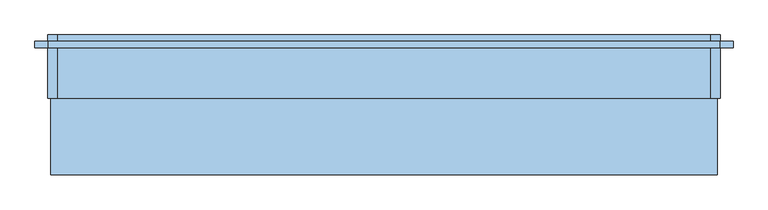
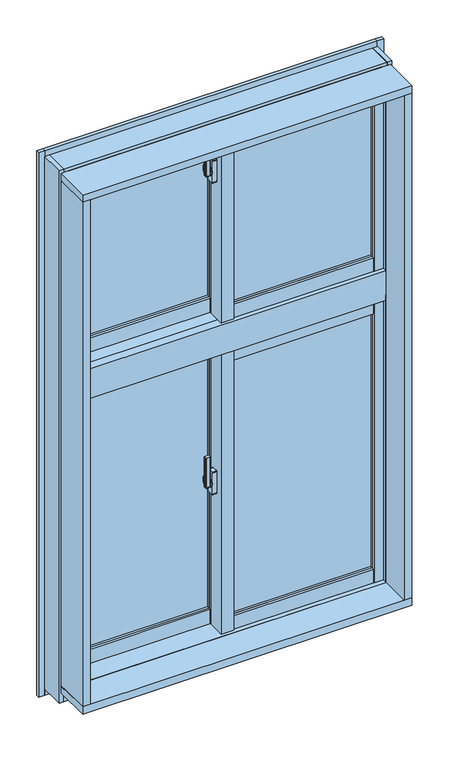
"""IFC4 building model written with IfcOpenShell, lengths in millimetres: window geometry, FNSⅡ100R_非防火_面付枠_段窓 : FIX/FIX 単."""

import ifcopenshell
import ifcopenshell.guid

model = None  # the IFC model being written
_history = None  # IfcOwnerHistory: only IFC2X3 demands one
_inside = {}  # id of a spatial element -> (the spatial element, [elements in it])
_under = {}  # id of a project, library or spatial element -> (it, [spatial elements below it])
_declared = {}  # id of a project -> (the project, [libraries it declares])
_typed = {}  # id of a type object -> (the type object, [elements of that type])
_made_of = {}  # id of a material, layer set ... -> (it, [elements and type objects made of it])


def new_model(schema):
    """Start an empty IFC model of exactly this schema.

    Asked for "IFC4X3", IfcOpenShell would pick the latest addendum, in which some entities
    have other attributes; the version numbers below select the first issue.
    IFC2X3 requires an IfcOwnerHistory on every rooted entity: one is made here for all.
    """
    global model, _history
    if schema == "IFC4X3":
        model = ifcopenshell.file(schema_version=(4, 3, 0, 0))
    else:
        model = ifcopenshell.file(schema=schema)
    _inside.clear()
    _under.clear()
    _declared.clear()
    _typed.clear()
    _made_of.clear()
    _history = None
    if model.schema == "IFC2X3":
        org = make("IfcOrganization", Name="unknown")
        user = make(
            "IfcPersonAndOrganization",
            ThePerson=make("IfcPerson", FamilyName="unknown"),
            TheOrganization=org,
        )
        app = make(
            "IfcApplication",
            ApplicationDeveloper=org,
            Version="unknown",
            ApplicationFullName="unknown",
            ApplicationIdentifier="unknown",
        )
        _history = make(
            "IfcOwnerHistory",
            OwningUser=user,
            OwningApplication=app,
            ChangeAction="ADDED",
            CreationDate=0,
        )
    return model


def make(cls, **values):
    """One entity of the class cls with the attributes given. An attribute that is None is left unset."""
    return model.create_entity(
        cls, **{name: value for name, value in values.items() if value is not None}
    )


def rooted(cls, **values):
    """An entity with a GlobalId (a new one), such as an element, a storey or a relation."""
    return make(cls, GlobalId=ifcopenshell.guid.new(), OwnerHistory=_history, **values)


def si_unit(unit_type, name, prefix=None):
    """IfcSIUnit, for example si_unit("LENGTHUNIT", "METRE", prefix="MILLI")."""
    return make("IfcSIUnit", UnitType=unit_type, Prefix=prefix, Name=name)


def assignment(units):
    """IfcUnitAssignment: the units of a project."""
    return None if units is None else make("IfcUnitAssignment", Units=units)


def point(xyz):
    """IfcCartesianPoint."""
    return None if xyz is None else make("IfcCartesianPoint", Coordinates=xyz)


def direction(xyz):
    """IfcDirection."""
    return None if xyz is None else make("IfcDirection", DirectionRatios=xyz)


def frame(location, z_axis=None, x_axis=None):
    """IfcAxis2Placement3D, a coordinate frame: its origin and axes. An axis left out is left unset."""
    return make(
        "IfcAxis2Placement3D",
        Location=point(location),
        Axis=direction(z_axis),
        RefDirection=direction(x_axis),
    )


def frame_2d(location, x_axis=None):
    """IfcAxis2Placement2D, a coordinate frame in the plane: its origin and x axis."""
    return make(
        "IfcAxis2Placement2D", Location=point(location), RefDirection=direction(x_axis)
    )


def origin():
    """The frame at (0, 0, 0) with its axes left unset."""
    return frame((0.0, 0.0, 0.0))


def place(relative_to, where):
    """IfcLocalPlacement: puts the frame where relative to a parent placement (None: the world)."""
    return make(
        "IfcLocalPlacement", PlacementRelTo=relative_to, RelativePlacement=where
    )


def context(
    kind, dimensions, precision=None, world=None, true_north=None, identifier=None
):
    """IfcGeometricRepresentationContext, for example the 3D "Model" context."""
    return make(
        "IfcGeometricRepresentationContext",
        ContextIdentifier=identifier,
        ContextType=kind,
        CoordinateSpaceDimension=dimensions,
        Precision=precision,
        WorldCoordinateSystem=world,
        TrueNorth=true_north,
    )


def project(units=None, contexts=None):
    """IfcProject with its units and contexts."""
    return rooted(
        "IfcProject",
        Name="project",
        RepresentationContexts=contexts,
        UnitsInContext=assignment(units),
    )


def spatial(cls, under=None, at=None, **own):
    """A site, building, storey or space (cls), placed at a placement, below another one or the project."""
    s = rooted(cls, ObjectPlacement=at, **own)
    if under is not None:
        _under.setdefault(under.id(), (under, []))[1].append(s)
    return s


def polyline(points):
    """IfcPolyline through the points."""
    return make("IfcPolyline", Points=[point(p) for p in points])


def circle_curve(where, radius):
    """IfcCircle in the frame where."""
    return make("IfcCircle", Position=where, Radius=radius)


def trimmed(basis, trim1, trim2, sense, master):
    """IfcTrimmedCurve: the piece of a basis curve between two trims."""
    return make(
        "IfcTrimmedCurve",
        BasisCurve=basis,
        Trim1=trim1,
        Trim2=trim2,
        SenseAgreement=sense,
        MasterRepresentation=master,
    )


def segment(curve, same_sense, transition):
    """IfcCompositeCurveSegment."""
    return make(
        "IfcCompositeCurveSegment",
        Transition=transition,
        SameSense=same_sense,
        ParentCurve=curve,
    )


def composite_curve(segments, self_intersect=None):
    """IfcCompositeCurve: segments joined end to end."""
    return make("IfcCompositeCurve", Segments=segments, SelfIntersect=self_intersect)


def outline(outer, holes=None, kind="AREA"):
    """IfcArbitraryClosedProfileDef: a profile drawn as a closed curve; with holes, ...WithVoids."""
    if holes is None:
        return make("IfcArbitraryClosedProfileDef", ProfileType=kind, OuterCurve=outer)
    return make(
        "IfcArbitraryProfileDefWithVoids",
        ProfileType=kind,
        OuterCurve=outer,
        InnerCurves=holes,
    )


def extrude(swept, where, along, depth):
    """IfcExtrudedAreaSolid: the profile swept, set in the frame where, extruded along a direction by depth."""
    return make(
        "IfcExtrudedAreaSolid",
        SweptArea=swept,
        Position=where,
        ExtrudedDirection=direction(along),
        Depth=depth,
    )


def faces_of(points, faces, orient=None, outer=None):
    """IfcFace entities. A face is a list of loops; a loop is a list of indices into points, from 0.

    orient and outer hold one flag for each loop. By default every Orientation is true, the
    first loop of a face is its IfcFaceOuterBound and the others are IfcFaceBound.
    """
    made = []
    for i, loops in enumerate(faces):
        bounds = []
        for j, loop in enumerate(loops):
            is_outer = j == 0 if outer is None else outer[i][j]
            bounds.append(
                make(
                    "IfcFaceOuterBound" if is_outer else "IfcFaceBound",
                    Bound=make("IfcPolyLoop", Polygon=[points[k] for k in loop]),
                    Orientation=True if orient is None else orient[i][j],
                )
            )
        made.append(make("IfcFace", Bounds=bounds))
    return made


def faceted_brep(points, faces, orient=None, outer=None, voids=None):
    """IfcFacetedBrep: a solid bounded by flat faces; with voids (closed shells), ...WithVoids."""
    shared = [point(p) for p in points]
    hull = make("IfcClosedShell", CfsFaces=faces_of(shared, faces, orient, outer))
    if voids is None:
        return make("IfcFacetedBrep", Outer=hull)
    return make(
        "IfcFacetedBrepWithVoids",
        Outer=hull,
        Voids=[
            make(cls, CfsFaces=faces_of(shared, fs, o, b)) for cls, fs, o, b in voids
        ],
    )


def shape(context_of_items, identifier, shape_type, items):
    """IfcShapeRepresentation: the items that make up one representation, for example the "Body"."""
    return make(
        "IfcShapeRepresentation",
        ContextOfItems=context_of_items,
        RepresentationIdentifier=identifier,
        RepresentationType=shape_type,
        Items=items,
    )


def source(mapping_origin, context_of_items, identifier, shape_type, items):
    """IfcRepresentationMap: a shape defined once, which mapped items show again and again."""
    return make(
        "IfcRepresentationMap",
        MappingOrigin=mapping_origin,
        MappedRepresentation=shape(context_of_items, identifier, shape_type, items),
    )


def transform(
    local_origin,
    x_axis=None,
    y_axis=None,
    z_axis=None,
    scale=None,
    scale2=None,
    scale3=None,
    uniform=True,
):
    """IfcCartesianTransformationOperator3D, or its non-uniform kind. x_axis, y_axis, z_axis: its Axis1, 2, 3."""
    if uniform:
        return make(
            "IfcCartesianTransformationOperator3D",
            Axis1=direction(x_axis),
            Axis2=direction(y_axis),
            LocalOrigin=point(local_origin),
            Scale=scale,
            Axis3=direction(z_axis),
        )
    return make(
        "IfcCartesianTransformationOperator3DnonUniform",
        Axis1=direction(x_axis),
        Axis2=direction(y_axis),
        LocalOrigin=point(local_origin),
        Scale=scale,
        Axis3=direction(z_axis),
        Scale2=scale2,
        Scale3=scale3,
    )


def mapped(mapping_source, mapping_target):
    """IfcMappedItem: shows the shape of a source again, moved by a transform."""
    return make(
        "IfcMappedItem", MappingSource=mapping_source, MappingTarget=mapping_target
    )


def made_of(thing, what):
    """Note that an element or type object is made of a material, layer set ...; save() writes the relation."""
    if what is not None:
        _made_of.setdefault(what.id(), (what, []))[1].append(thing)
    return thing


def element(
    cls,
    number,
    at=None,
    inside=None,
    cuts=None,
    type_object=None,
    material=None,
    context=None,
    identifier="Body",
    shape_type=None,
    held_by="IfcProductDefinitionShape",
    body=None,
    shapes=None,
    **own,
):
    """One element of the class cls, such as IfcWall. Its Tag is "e" and its number.

    at: its placement. inside: the storey or other place that contains it. cuts: it is an
    opening in that element (IfcRelVoidsElement). A single representation is given by context,
    identifier, shape_type and body (its items); several are given by shapes. held_by: the class
    of the entity that holds the representations. save() writes the other relations.
    """
    e = rooted(cls, Tag="e%d" % number, ObjectPlacement=at, **own)
    if body is not None:
        shapes = [shape(context, identifier, shape_type, body)]
    if shapes is not None:
        e.Representation = make(held_by, Representations=shapes)
    if inside is not None:
        _inside.setdefault(inside.id(), (inside, []))[1].append(e)
    if cuts is not None:
        rooted(
            "IfcRelVoidsElement", RelatingBuildingElement=cuts, RelatedOpeningElement=e
        )
    if type_object is not None:
        _typed.setdefault(type_object.id(), (type_object, []))[1].append(e)
    return made_of(e, material)


def aggregate(whole, parts):
    """IfcRelAggregates: a whole, such as a stair, and the parts it consists of."""
    return rooted("IfcRelAggregates", RelatingObject=whole, RelatedObjects=parts)


def save(model, path):
    """Write the relations noted so far, then the file.

    IfcRelAggregates (storeys below a building ...), IfcRelContainedInSpatialStructure (elements
    in a storey), IfcRelDefinesByType, IfcRelAssociatesMaterial and IfcRelDeclares: one each for
    every whole, place, type object, material and project.
    """
    for whole, parts in _under.values():
        aggregate(whole, parts)
    for where, things in _inside.values():
        rooted(
            "IfcRelContainedInSpatialStructure",
            RelatedElements=things,
            RelatingStructure=where,
        )
    for kind, things in _typed.values():
        rooted("IfcRelDefinesByType", RelatedObjects=things, RelatingType=kind)
    for what, things in _made_of.values():
        rooted("IfcRelAssociatesMaterial", RelatedObjects=things, RelatingMaterial=what)
    for by, libraries in _declared.values():
        rooted("IfcRelDeclares", RelatingContext=by, RelatedDefinitions=libraries)
    model.write(path)


def plane_surface(at):
    """IfcPlane: the flat surface through the origin of the frame at, square to its z axis."""
    return make("IfcPlane", Position=at)


def cylinder_surface(at, radius):
    """IfcCylindricalSurface: all points at the distance radius from the z axis of the frame at."""
    return make("IfcCylindricalSurface", Position=at, Radius=radius)


def revolved_surface(curve, axis_point, axis_direction):
    """IfcSurfaceOfRevolution: the curve turned about the line through axis_point along axis_direction."""
    return make(
        "IfcSurfaceOfRevolution",
        SweptCurve=make("IfcArbitraryOpenProfileDef", ProfileType="CURVE", Curve=curve),
        AxisPosition=make("IfcAxis1Placement", Location=point(axis_point), Axis=direction(axis_direction)),
    )


def advanced_brep(points, edges, surfaces, faces):
    """IfcAdvancedBrep: a solid bounded by faces that lie on surfaces and meet in shared edges.

    An edge is (start, end): straight between two places in points (the first is 0);
    or (start, end, curve); or (start, end, curve, False) where it runs against its curve.
    A face is (place in surfaces, loops), or (place, loops, False) where it looks against
    its surface's normal. A loop lists edges by number (the first is 1), with a minus sign
    where the edge is run from its end to its start. The first loop is the outer one.
    """
    corners = [point(p) for p in points]
    vertices = [make("IfcVertexPoint", VertexGeometry=c) for c in corners]
    made = []
    for start, end, *more in edges:
        made.append(
            make(
                "IfcEdgeCurve",
                EdgeStart=vertices[start],
                EdgeEnd=vertices[end],
                EdgeGeometry=more[0] if more else make("IfcPolyline", Points=[corners[start], corners[end]]),
                SameSense=more[1] if len(more) > 1 else True,
            )
        )
    hull = []
    for where, loops, *sense in faces:
        bounds = []
        for j, loop in enumerate(loops):
            ring = [make("IfcOrientedEdge", EdgeElement=made[abs(k) - 1], Orientation=k > 0) for k in loop]
            bounds.append(
                make(
                    "IfcFaceOuterBound" if j == 0 else "IfcFaceBound",
                    Bound=make("IfcEdgeLoop", EdgeList=ring),
                    Orientation=True,
                )
            )
        hull.append(make("IfcAdvancedFace", Bounds=bounds, FaceSurface=surfaces[where], SameSense=sense[0] if sense else True))
    return make("IfcAdvancedBrep", Outer=make("IfcClosedShell", CfsFaces=hull))


def window_3b290d56(model_context):
    return source(origin(), model_context, "Body", "SolidModel", [
        extrude(outline(composite_curve([segment(polyline([(-39.0, 34.6), (-39.0, 26.4)]), True, "CONTINUOUS"), segment(trimmed(circle_curve(frame_2d((-41.0, 26.4)), 2.0), [point((-39.0, 26.4))], [point((-41.3606557, 24.4327869))], False, "CARTESIAN"), True, "CONTINUOUS"), segment(polyline([(-41.3606557, 24.4327869), (-52.3606557, 26.4494536)]), True, "CONTINUOUS"), segment(trimmed(circle_curve(frame_2d((-52.0, 28.4166667)), 2.0), [point((-52.3606557, 26.4494536))], [point((-54.0, 28.4166667))], False, "CARTESIAN"), True, "CONTINUOUS"), segment(polyline([(-54.0, 28.4166667), (-54.0, 32.5833333)]), True, "CONTINUOUS"), segment(trimmed(circle_curve(frame_2d((-52.0, 32.5833333)), 2.0), [point((-54.0, 32.5833333))], [point((-52.3606557, 34.5505464))], False, "CARTESIAN"), True, "CONTINUOUS"), segment(polyline([(-52.3606557, 34.5505464), (-41.3606557, 36.5672131)]), True, "CONTINUOUS"), segment(trimmed(circle_curve(frame_2d((-41.0, 34.6)), 2.0), [point((-41.3606557, 36.5672131))], [point((-39.0, 34.6))], False, "CARTESIAN"), True, "CONTINUOUS")], self_intersect=False)), frame((0.0, 0.0, 2440.0), z_axis=(0.0, 0.0, 1.0), x_axis=(1.0, 0.0, 0.0)), (0.0, 0.0, 1.0), 100.0),
        advanced_brep(
        [(-37.5, 38.8234285, 2471.7333311), (-45.5, 38.8234285, 2471.7333311), (-45.5, 38.4351999, 2470.2844424), (-39.0, 38.4351999, 2470.2844424), (-39.0, 36.6234666, 2463.5229616), (-37.5, 36.6234666, 2463.5229616), (-39.0, 36.6466117, 2429.3190372), (-45.5, 36.6466117, 2429.3190372), (-45.5, 36.907084, 2427.8418256), (-37.5, 36.907084, 2427.8418256), (-37.5, 35.4310745, 2436.2126915), (-39.0, 35.4310745, 2436.2126915)],
        [
            (0, 1),
            (1, 2),
            (2, 3),
            (3, 4),
            (4, 5),
            (5, 0),
            (6, 7),
            (7, 8),
            (8, 9),
            (9, 10),
            (10, 11),
            (11, 6),
            (0, 9, circle_curve(frame((-37.5, 33.0, 2450.0), z_axis=(-1.0, 0.0, 0.0), x_axis=(0.0, 0.25881904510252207, 0.965925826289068)), 22.5)),
            (8, 1, circle_curve(frame((-45.5, 33.0, 2450.0), z_axis=(1.0, 0.0, 0.0), x_axis=(0.0, 0.25881904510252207, 0.965925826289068)), 22.5)),
            (7, 2, circle_curve(frame((-45.5, 33.0, 2450.0), z_axis=(1.0, 0.0, 0.0), x_axis=(0.0, 0.25881904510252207, 0.965925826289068)), 21.0)),
            (6, 3, circle_curve(frame((-39.0, 33.0, 2450.0), z_axis=(1.0, 0.0, 0.0), x_axis=(0.0, 0.25881904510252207, 0.965925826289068)), 21.0)),
            (11, 4, circle_curve(frame((-39.0, 33.0, 2450.0), z_axis=(-1.0, 0.0, 0.0), x_axis=(0.0, -1.0, 0.0)), 14.0)),
            (5, 10, circle_curve(frame((-37.5, 33.0, 2450.0), z_axis=(1.0, 0.0, 0.0), x_axis=(0.0, -1.0, 0.0)), 14.0)),
        ],
        [
            plane_surface(frame((-43.5470497, 33.0, 2450.0), z_axis=(0.0, -0.965925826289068, 0.25881904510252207), x_axis=(0.0, 0.25881904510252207, 0.965925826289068))),
            plane_surface(frame((-43.5470497, 33.0, 2450.0), z_axis=(0.0, -0.9848077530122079, -0.17364817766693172), x_axis=(0.0, 0.17364817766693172, -0.9848077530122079))),
            cylinder_surface(frame((-43.5470497, 33.0, 2450.0), z_axis=(-1.0, 0.0, 0.0), x_axis=(0.0, 0.25881904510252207, 0.965925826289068)), 22.5),
            plane_surface(frame((-45.5, 33.0, 2450.0), z_axis=(-1.0, 0.0, 0.0), x_axis=(0.0, 0.25881904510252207, 0.965925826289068))),
            revolved_surface(polyline([(-45.5, 38.43519994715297, 2470.2844423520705), (-39.0, 38.43519994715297, 2470.2844423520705)]), (-43.5470497, 33.0, 2450.0), (-1.0, 0.0, 0.0)),
            plane_surface(frame((-39.0, 33.0, 2450.0), z_axis=(-1.0, 0.0, 0.0), x_axis=(0.0, 0.25881904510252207, 0.965925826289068))),
            plane_surface(frame((-37.5, 33.0, 2450.0), z_axis=(1.0, 0.0, 0.0), x_axis=(0.0, 0.25881904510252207, 0.965925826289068))),
            cylinder_surface(frame((-37.5, 33.0, 2450.0), z_axis=(-1.0, 0.0, 0.0), x_axis=(0.0, -1.0, 0.0)), 14.0),
        ],
        [
            (0, [[1, 2, 3, 4, 5, 6]]),
            (1, [[7, 8, 9, 10, 11, 12]]),
            (2, [[-1, 13, -9, 14]]),
            (3, [[-2, -14, -8, 15]]),
            (4, [[-3, -15, -7, 16]]),
            (5, [[-16, -12, 17, -4]]),
            (6, [[-13, -6, 18, -10]]),
            (7, [[-17, -11, -18, -5]]),
        ],
    ),
        extrude(outline(composite_curve([segment(trimmed(circle_curve(frame_2d((33.0, 2450.0)), 11.5), [point((44.5, 2450.0))], [point((21.5, 2450.0))], False, "CARTESIAN"), True, "CONTINUOUS"), segment(trimmed(circle_curve(frame_2d((33.0, 2450.0)), 11.5), [point((21.5, 2450.0))], [point((44.5, 2450.0))], False, "CARTESIAN"), True, "CONTINUOUS")], self_intersect=False)), frame((-37.5, 0.0, 0.0), z_axis=(1.0, 0.0, 0.0), x_axis=(0.0, 1.0, 0.0)), (0.0, 0.0, 1.0), 2.5),
        extrude(outline(composite_curve([segment(polyline([(24.0, 2487.5), (42.0, 2487.5)]), True, "CONTINUOUS"), segment(trimmed(circle_curve(frame_2d((42.0, 2485.5)), 2.0), [point((42.0, 2487.5))], [point((44.0, 2485.5))], False, "CARTESIAN"), True, "CONTINUOUS"), segment(polyline([(44.0, 2485.5), (44.0, 2414.5)]), True, "CONTINUOUS"), segment(trimmed(circle_curve(frame_2d((42.0, 2414.5)), 2.0), [point((44.0, 2414.5))], [point((42.0, 2412.5))], False, "CARTESIAN"), True, "CONTINUOUS"), segment(polyline([(42.0, 2412.5), (24.0, 2412.5)]), True, "CONTINUOUS"), segment(trimmed(circle_curve(frame_2d((24.0, 2414.5)), 2.0), [point((24.0, 2412.5))], [point((22.0, 2414.5))], False, "CARTESIAN"), True, "CONTINUOUS"), segment(polyline([(22.0, 2414.5), (22.0, 2485.5)]), True, "CONTINUOUS"), segment(trimmed(circle_curve(frame_2d((24.0, 2485.5)), 2.0), [point((22.0, 2485.5))], [point((24.0, 2487.5))], False, "CARTESIAN"), True, "CONTINUOUS")], self_intersect=False)), frame((-35.0, 0.0, 0.0), z_axis=(1.0, 0.0, 0.0), x_axis=(0.0, 1.0, 0.0)), (0.0, 0.0, 1.0), 15.0),
        extrude(outline(polyline([(20.0, 24.0), (468.0, 24.0), (468.0, 18.0), (20.0, 18.0), (20.0, 24.0)])), frame((0.0, 0.0, 1998.0), z_axis=(0.0, 0.0, 1.0), x_axis=(1.0, 0.0, 0.0)), (0.0, 0.0, 1.0), 562.0),
        extrude(outline(polyline([(20.0, 42.0), (468.0, 42.0), (468.0, 36.0), (20.0, 36.0), (20.0, 42.0)])), frame((0.0, 0.0, 1998.0), z_axis=(0.0, 0.0, 1.0), x_axis=(1.0, 0.0, 0.0)), (0.0, 0.0, 1.0), 562.0),
        extrude(outline(polyline([(-468.0, 82.0), (-20.0, 82.0), (-20.0, 76.0), (-468.0, 76.0), (-468.0, 82.0)])), frame((0.0, 0.0, 1998.0), z_axis=(0.0, 0.0, 1.0), x_axis=(1.0, 0.0, 0.0)), (0.0, 0.0, 1.0), 562.0),
        extrude(outline(polyline([(-468.0, 100.0), (-20.0, 100.0), (-20.0, 94.0), (-468.0, 94.0), (-468.0, 100.0)])), frame((0.0, 0.0, 1998.0), z_axis=(0.0, 0.0, 1.0), x_axis=(1.0, 0.0, 0.0)), (0.0, 0.0, 1.0), 562.0),
        faceted_brep([(-500.0, 79.0, 2600.0), (-489.5, 79.0, 2600.0), (-489.5, 66.0, 2600.0), (-468.0, 66.0, 2600.0), (-468.0, 108.0, 2600.0), (-500.0, 108.0, 2600.0), (-468.0, 79.0, 1910.0), (-500.0, 79.0, 1910.0), (-500.0, 108.0, 1910.0), (-468.0, 108.0, 1910.0), (-468.0, 79.0, 1950.0), (-489.5, 79.0, 1950.0), (-489.5, 66.0, 1950.0), (-468.0, 66.0, 1950.0)], [[[0, 1, 2, 3, 4, 5]], [[6, 7, 8, 9]], [[1, 0, 7, 6, 10, 11]], [[2, 1, 11, 12]], [[3, 2, 12, 13]], [[4, 3, 13, 10, 6, 9]], [[5, 4, 9, 8]], [[7, 0, 5, 8]], [[11, 10, 13, 12]]]),
        faceted_brep([(-20.0, 65.5, 2600.0), (-1.8, 65.5, 2600.0), (-1.8, 53.1, 2600.0), (20.0, 53.1, 2600.0), (20.0, 108.0, 2600.0), (-20.0, 108.0, 2600.0), (-20.0, 108.0, 1910.0), (20.0, 108.0, 1910.0), (20.0, 79.0, 1910.0), (-20.0, 79.0, 1910.0), (-20.0, 65.5, 1950.0), (-1.8, 65.5, 1950.0), (-1.8, 53.1, 1950.0), (20.0, 53.1, 1950.0), (20.0, 79.0, 1950.0), (-20.0, 79.0, 1950.0)], [[[0, 1, 2, 3, 4, 5]], [[6, 7, 8, 9]], [[1, 0, 10, 11]], [[2, 1, 11, 12]], [[3, 2, 12, 13]], [[4, 3, 13, 14, 8, 7]], [[5, 4, 7, 6]], [[0, 5, 6, 9, 15, 10]], [[14, 15, 9, 8]], [[15, 14, 13, 12, 11, 10]]]),
        extrude(outline(polyline([(-20.0, 53.1), (-15.0, 53.1), (-15.0, 8.0), (15.0, 8.0), (15.0, 12.0), (20.0, 12.0), (20.0, 0.0), (-20.0, 0.0), (-20.0, 53.1)])), frame((0.0, 0.0, 1950.0), z_axis=(0.0, 0.0, 1.0), x_axis=(1.0, 0.0, 0.0)), (0.0, 0.0, 1.0), 650.0),
        extrude(outline(polyline([(-15.0, 53.1), (20.0, 53.1), (20.0, 12.0), (15.0, 12.0), (15.0, 8.0), (-15.0, 8.0), (-15.0, 53.1)])), frame((0.0, 0.0, 1950.0), z_axis=(0.0, 0.0, 1.0), x_axis=(1.0, 0.0, 0.0)), (0.0, 0.0, 1.0), 650.0),
        extrude(outline(polyline([(468.0, 0.0), (468.0, 8.0), (489.5, 8.0), (489.5, 21.0), (497.0, 21.0), (497.0, 0.0), (468.0, 0.0)])), frame((0.0, 0.0, 1953.0), z_axis=(0.0, 0.0, 1.0), x_axis=(1.0, 0.0, 0.0)), (0.0, 0.0, 1.0), 647.0),
        extrude(outline(polyline([(468.0, 50.0), (500.0, 50.0), (500.0, 21.0), (489.5, 21.0), (489.5, 8.0), (468.0, 8.0), (468.0, 50.0)])), frame((0.0, 0.0, 1950.0), z_axis=(0.0, 0.0, 1.0), x_axis=(1.0, 0.0, 0.0)), (0.0, 0.0, 1.0), 650.0),
        extrude(outline(polyline([(-1.85, 65.5), (-1.85, 58.0), (-20.0, 58.0), (-20.0, 65.5), (-1.85, 65.5)])), frame((0.0, 0.0, 1950.0), z_axis=(0.0, 0.0, 1.0), x_axis=(1.0, 0.0, 0.0)), (0.0, 0.0, 1.0), 650.0),
        extrude(outline(polyline([(-497.0, 79.0), (-489.5, 79.0), (-489.5, 66.0), (-468.0, 66.0), (-468.0, 58.0), (-497.0, 58.0), (-497.0, 79.0)])), frame((0.0, 0.0, 1950.0), z_axis=(0.0, 0.0, 1.0), x_axis=(1.0, 0.0, 0.0)), (0.0, 0.0, 1.0), 650.0),
        extrude(outline(polyline([(2.0, 1953.0), (2.0, 1998.0), (10.0, 1998.0), (10.0, 1975.5), (21.0, 1975.5), (21.0, 1953.0), (2.0, 1953.0)])), frame((20.0, 0.0, 0.0), z_axis=(1.0, 0.0, 0.0), x_axis=(0.0, 1.0, 0.0)), (0.0, 0.0, 1.0), 448.0),
        extrude(outline(polyline([(50.0, 1950.0), (21.0, 1950.0), (21.0, 1975.5), (10.0, 1975.5), (10.0, 1998.0), (50.0, 1998.0), (50.0, 1950.0)])), frame((20.0, 0.0, 0.0), z_axis=(1.0, 0.0, 0.0), x_axis=(0.0, 1.0, 0.0)), (0.0, 0.0, 1.0), 448.0),
        extrude(outline(polyline([(60.0, 1998.0), (68.0, 1998.0), (68.0, 1975.5), (79.0, 1975.5), (79.0, 1950.0), (60.0, 1950.0), (60.0, 1998.0)])), frame((-468.0, 0.0, 0.0), z_axis=(1.0, 0.0, 0.0), x_axis=(0.0, 1.0, 0.0)), (0.0, 0.0, 1.0), 448.0),
        extrude(outline(polyline([(108.0, 1910.0), (79.0, 1910.0), (79.0, 1975.5), (68.0, 1975.5), (68.0, 1998.0), (108.0, 1998.0), (108.0, 1910.0)])), frame((-468.0, 0.0, 0.0), z_axis=(1.0, 0.0, 0.0), x_axis=(0.0, 1.0, 0.0)), (0.0, 0.0, 1.0), 448.0),
        extrude(outline(polyline([(23.0, 2580.5), (10.0, 2580.5), (10.0, 2560.0), (2.0, 2560.0), (2.0, 2600.0), (23.0, 2600.0), (23.0, 2580.5)])), frame((20.0, 0.0, 0.0), z_axis=(1.0, 0.0, 0.0), x_axis=(0.0, 1.0, 0.0)), (0.0, 0.0, 1.0), 448.0),
        extrude(outline(polyline([(50.0, 2600.0), (50.0, 2560.0), (10.0, 2560.0), (10.0, 2580.5), (23.0, 2580.5), (23.0, 2600.0), (50.0, 2600.0)])), frame((20.0, 0.0, 0.0), z_axis=(1.0, 0.0, 0.0), x_axis=(0.0, 1.0, 0.0)), (0.0, 0.0, 1.0), 448.0),
        extrude(outline(polyline([(81.0, 2580.5), (68.0, 2580.5), (68.0, 2560.0), (60.0, 2560.0), (60.0, 2600.0), (81.0, 2600.0), (81.0, 2580.5)])), frame((-468.0, 0.0, 0.0), z_axis=(1.0, 0.0, 0.0), x_axis=(0.0, 1.0, 0.0)), (0.0, 0.0, 1.0), 448.0),
        extrude(outline(polyline([(108.0, 2600.0), (108.0, 2560.0), (68.0, 2560.0), (68.0, 2580.5), (81.0, 2580.5), (81.0, 2600.0), (108.0, 2600.0)])), frame((-468.0, 0.0, 0.0), z_axis=(1.0, 0.0, 0.0), x_axis=(0.0, 1.0, 0.0)), (0.0, 0.0, 1.0), 448.0),
        faceted_brep([(500.0, -10.0, 900.0), (500.0, 14.5, 900.0), (515.0, 14.5, 900.0), (515.0, 10.0, 900.0), (503.0, 10.0, 900.0), (503.0, -10.0, 900.0), (500.0, -10.0, 1870.0), (500.0, 14.5, 1870.0), (515.0, 14.5, 1870.0), (515.0, 10.0, 1870.0), (503.0, 10.0, 1870.0), (503.0, -10.0, 1870.0)], [[[0, 1, 2, 3, 4, 5]], [[1, 0, 6, 7]], [[2, 1, 7, 8]], [[3, 2, 8, 9]], [[4, 3, 9, 10]], [[5, 4, 10, 11]], [[0, 5, 11, 6]], [[6, 11, 10, 9, 8, 7]]]),
        faceted_brep([(500.0, 10.0, 2620.0), (500.0, 14.5, 2620.0), (500.0, 14.5, 1950.0), (500.0, -10.0, 1950.0), (500.0, -10.0, 2603.0), (500.0, 10.0, 2603.0), (515.0, 14.5, 2620.0), (515.0, 14.5, 1950.0), (515.0, 10.0, 2620.0), (515.0, 10.0, 1950.0), (503.0, 10.0, 2603.0), (503.0, 10.0, 1950.0), (503.0, -10.0, 2603.0), (503.0, -10.0, 1950.0)], [[[0, 1, 2, 3, 4, 5]], [[1, 6, 7, 2]], [[6, 8, 9, 7]], [[5, 10, 11, 9, 8, 0]], [[10, 12, 13, 11]], [[12, 4, 3, 13]], [[8, 6, 1, 0]], [[10, 5, 4, 12]], [[13, 3, 2, 7, 9, 11]]]),
        faceted_brep([(515.0, 110.0, 840.0), (515.0, 110.0, 849.0), (515.0, 76.0, 849.0), (515.0, 76.0, 884.0), (515.0, 10.0, 884.0), (515.0, 10.0, 840.0), (-515.0, 110.0, 840.0), (-515.0, 110.0, 849.0), (-515.0, 76.0, 849.0), (-515.0, 76.0, 884.0), (-515.0, 10.0, 884.0), (500.0, 37.25, 884.0), (500.0, 18.8, 884.0), (-15.0, 18.8, 884.0), (-15.0, 37.25, 884.0), (-515.0, 10.0, 840.0), (500.0, 18.8, 900.0), (500.0, 37.25, 900.0), (-15.0, 18.8, 900.0), (-15.0, 37.25, 900.0)], [[[0, 1, 2, 3, 4, 5]], [[1, 0, 6, 7]], [[2, 1, 7, 8]], [[3, 2, 8, 9]], [[4, 3, 9, 10], [11, 12, 13, 14]], [[5, 4, 10, 15]], [[0, 5, 15, 6]], [[6, 15, 10, 9, 8, 7]], [[16, 12, 11, 17]], [[12, 16, 18, 13]], [[18, 19, 14, 13]], [[17, 11, 14, 19]], [[16, 17, 19, 18]]]),
        faceted_brep([(500.0, 18.8, 1950.0), (500.0, 18.8, 1934.0), (500.0, 37.25, 1934.0), (500.0, 37.25, 1950.0), (-15.0, 18.8, 1950.0), (-15.0, 37.25, 1950.0), (-15.0, 37.25, 1934.0), (-15.0, 18.8, 1934.0)], [[[0, 1, 2, 3]], [[4, 5, 6, 7]], [[1, 0, 4, 7]], [[2, 1, 7, 6]], [[3, 2, 6, 5]], [[0, 3, 5, 4]]]),
        faceted_brep([(-515.0, 10.0, 900.0), (-515.0, 76.0, 900.0), (-500.0, 76.0, 900.0), (-500.0, -10.0, 900.0), (-503.0, -10.0, 900.0), (-503.0, 10.0, 900.0), (-515.0, 10.0, 1870.0), (-515.0, 76.0, 1870.0), (-500.0, 76.0, 1870.0), (-500.0, -10.0, 1870.0), (-503.0, -10.0, 1870.0), (-503.0, 10.0, 1870.0)], [[[0, 1, 2, 3, 4, 5]], [[1, 0, 6, 7]], [[2, 1, 7, 8]], [[3, 2, 8, 9]], [[4, 3, 9, 10]], [[5, 4, 10, 11]], [[0, 5, 11, 6]], [[6, 11, 10, 9, 8, 7]]]),
        faceted_brep([(-515.0, 10.0, 2620.0), (-515.0, 76.0, 2620.0), (-515.0, 76.0, 1950.0), (-515.0, 10.0, 1950.0), (-500.0, 76.0, 2620.0), (-500.0, 76.0, 1950.0), (-500.0, 10.0, 2620.0), (-500.0, 10.0, 2603.0), (-500.0, -10.0, 2603.0), (-500.0, -10.0, 1950.0), (-503.0, -10.0, 2603.0), (-503.0, -10.0, 1950.0), (-503.0, 10.0, 2603.0), (-503.0, 10.0, 1950.0)], [[[0, 1, 2, 3]], [[1, 4, 5, 2]], [[4, 6, 7, 8, 9, 5]], [[8, 10, 11, 9]], [[10, 12, 13, 11]], [[12, 7, 6, 0, 3, 13]], [[4, 1, 0, 6]], [[7, 12, 10, 8]], [[13, 3, 2, 5, 9, 11]]]),
        faceted_brep([(-530.0, 110.0, 840.0), (-515.0, 110.0, 840.0), (-515.0, 10.0, 840.0), (-530.0, 10.0, 840.0), (-530.0, 110.0, 2635.0), (-515.0, 110.0, 2635.0), (-515.0, 110.0, 2600.0), (-500.0, 110.0, 2600.0), (-500.0, 110.0, 1899.0), (-515.0, 110.0, 1899.0), (-515.0, 110.0, 1850.0), (-500.0, 110.0, 1850.0), (-500.0, 110.0, 849.0), (-515.0, 110.0, 849.0), (-515.0, 10.0, 2635.0), (-515.0, 76.0, 849.0), (-515.0, 76.0, 1850.0), (-515.0, 76.0, 1899.0), (-515.0, 76.0, 2600.0), (-530.0, 10.0, 2635.0), (-500.0, 76.0, 849.0), (-500.0, 76.0, 1850.0), (-500.0, 76.0, 2600.0), (-500.0, 76.0, 1899.0)], [[[0, 1, 2, 3]], [[4, 5, 6, 7, 8, 9, 10, 11, 12, 13, 1, 0]], [[5, 14, 2, 1, 13, 15, 16, 10, 9, 17, 18, 6]], [[14, 19, 3, 2]], [[19, 4, 0, 3]], [[12, 20, 15, 13]], [[21, 16, 15, 20]], [[11, 21, 20, 12]], [[4, 19, 14, 5]], [[11, 10, 16, 21]], [[7, 6, 18, 22]], [[8, 23, 17, 9]], [[22, 18, 17, 23]], [[7, 22, 23, 8]]]),
        faceted_brep([(515.0, 10.0, 840.0), (515.0, 110.0, 840.0), (530.0, 110.0, 840.0), (530.0, 10.0, 840.0), (515.0, 10.0, 2635.0), (515.0, 110.0, 2635.0), (515.0, 110.0, 2600.0), (515.0, 14.5, 2600.0), (515.0, 14.5, 1899.0), (515.0, 110.0, 1899.0), (515.0, 110.0, 1850.0), (515.0, 14.5, 1850.0), (515.0, 14.5, 849.0), (515.0, 110.0, 849.0), (530.0, 110.0, 2635.0), (500.0, 110.0, 849.0), (500.0, 110.0, 1850.0), (500.0, 110.0, 1899.0), (500.0, 110.0, 2600.0), (530.0, 10.0, 2635.0), (500.0, 14.5, 849.0), (500.0, 14.5, 1850.0), (500.0, 14.5, 2600.0), (500.0, 14.5, 1899.0)], [[[0, 1, 2, 3]], [[4, 5, 6, 7, 8, 9, 10, 11, 12, 13, 1, 0]], [[5, 14, 2, 1, 13, 15, 16, 10, 9, 17, 18, 6]], [[14, 19, 3, 2]], [[19, 4, 0, 3]], [[20, 15, 13, 12]], [[21, 16, 15, 20]], [[11, 21, 20, 12]], [[4, 19, 14, 5]], [[21, 11, 10, 16]], [[22, 7, 6, 18]], [[23, 17, 9, 8]], [[7, 22, 23, 8]], [[22, 18, 17, 23]]]),
        faceted_brep([(503.0, -10.0, 900.0), (503.0, -10.0, 897.0), (503.0, 10.0, 897.0), (503.0, 10.0, 884.0), (503.0, 14.5, 884.0), (503.0, 14.5, 900.0), (-503.0, 10.0, 884.0), (-503.0, 10.0, 897.0), (-503.0, -10.0, 897.0), (-503.0, -10.0, 900.0), (-503.0, 18.8, 900.0), (-503.0, 18.8, 884.0), (500.0, 14.5, 900.0), (500.0, 18.8, 900.0), (-15.0, 18.8, 900.0), (-15.0, 76.0, 900.0), (-500.0, 76.0, 900.0), (-500.0, 18.8, 900.0), (-500.0, 18.8, 884.0), (500.0, 18.8, 884.0), (-15.0, 18.8, 884.0), (-500.0, 76.0, 884.0), (-15.0, 76.0, 884.0), (500.0, 14.5, 884.0)], [[[0, 1, 2, 3, 4, 5]], [[6, 7, 8, 9, 10, 11]], [[3, 2, 7, 6]], [[2, 1, 8, 7]], [[1, 0, 9, 8]], [[10, 9, 0, 5, 12, 13, 14, 15, 16, 17]], [[11, 10, 17, 18]], [[13, 19, 20, 14]], [[6, 11, 18, 21, 22, 20, 19, 23, 4, 3]], [[12, 23, 19, 13]], [[23, 12, 5, 4]], [[15, 14, 20, 22]], [[16, 21, 18, 17]], [[15, 22, 21, 16]]]),
        faceted_brep([(500.0, 31.9, 2600.0), (500.0, 31.9, 2625.0), (500.0, 10.0, 2625.0), (500.0, 10.0, 2603.0), (500.0, -10.0, 2603.0), (500.0, -10.0, 2600.0), (-500.0, 31.9, 2600.0), (-500.0, -10.0, 2600.0), (-500.0, -10.0, 2603.0), (-500.0, 10.0, 2603.0), (-500.0, 10.0, 2625.0), (-500.0, 31.9, 2625.0)], [[[0, 1, 2, 3, 4, 5]], [[6, 7, 8, 9, 10, 11]], [[1, 0, 6, 11]], [[2, 1, 11, 10]], [[3, 2, 10, 9]], [[4, 3, 9, 8]], [[5, 4, 8, 7]], [[0, 5, 7, 6]]]),
        faceted_brep([(500.0, 31.9, 1875.0), (500.0, 10.0, 1875.0), (500.0, 10.0, 1934.0), (500.0, 18.8, 1934.0), (500.0, 18.8, 1950.0), (500.0, -10.0, 1950.0), (500.0, -10.0, 1870.0), (500.0, -10.0, 1850.0), (500.0, 31.9, 1850.0), (500.0, 31.9, 1870.0), (-500.0, 31.9, 1850.0), (-500.0, -10.0, 1850.0), (-500.0, -10.0, 1870.0), (-500.0, -10.0, 1950.0), (-500.0, 18.8, 1950.0), (-500.0, 18.8, 1934.0), (-500.0, 10.0, 1934.0), (-500.0, 10.0, 1875.0), (-500.0, 31.9, 1875.0), (-500.0, 31.9, 1870.0)], [[[0, 1, 2, 3, 4, 5, 6, 7, 8, 9]], [[10, 11, 12, 13, 14, 15, 16, 17, 18, 19]], [[8, 10, 19, 18, 0, 9]], [[1, 0, 18, 17]], [[5, 13, 12, 11, 7, 6]], [[8, 7, 11, 10]], [[2, 1, 17, 16]], [[3, 2, 16, 15]], [[4, 3, 15, 14]], [[5, 4, 14, 13]]]),
        extrude(outline(polyline([(-15.0, 80.3), (-15.0, 31.9), (-500.0, 31.9), (-500.0, 80.3), (-15.0, 80.3)])), frame((0.0, 0.0, 2600.0), z_axis=(0.0, 0.0, 1.0), x_axis=(1.0, 0.0, 0.0)), (0.0, 0.0, 1.0), 25.0),
        extrude(outline(polyline([(-15.0, 76.0), (-15.0, 18.8), (-500.0, 18.8), (-500.0, 76.0), (-15.0, 76.0)])), frame((0.0, 0.0, 1934.0), z_axis=(0.0, 0.0, 1.0), x_axis=(1.0, 0.0, 0.0)), (0.0, 0.0, 1.0), 16.0),
        extrude(outline(polyline([(-15.0, 80.3), (-15.0, 31.9), (-500.0, 31.9), (-500.0, 80.3), (-15.0, 80.3)])), frame((0.0, 0.0, 1850.0), z_axis=(0.0, 0.0, 1.0), x_axis=(1.0, 0.0, 0.0)), (0.0, 0.0, 1.0), 25.0),
        faceted_brep([(515.0, 110.0, 2600.0), (515.0, 110.0, 2635.0), (515.0, 10.0, 2635.0), (515.0, 10.0, 2625.0), (515.0, 80.3, 2625.0), (515.0, 80.3, 2600.0), (-515.0, 110.0, 2600.0), (-515.0, 80.3, 2600.0), (-515.0, 80.3, 2625.0), (-515.0, 10.0, 2625.0), (-515.0, 10.0, 2635.0), (-515.0, 110.0, 2635.0), (-15.0, 80.3, 2625.0), (-15.0, 31.9, 2625.0), (500.0, 31.9, 2625.0), (500.0, 80.3, 2625.0), (500.0, 80.3, 2600.0), (-15.0, 80.3, 2600.0), (500.0, 31.9, 2600.0), (-15.0, 31.9, 2600.0)], [[[0, 1, 2, 3, 4, 5]], [[6, 7, 8, 9, 10, 11]], [[1, 0, 6, 11]], [[2, 1, 11, 10]], [[3, 2, 10, 9]], [[4, 3, 9, 8, 12, 13, 14, 15]], [[5, 4, 15, 16]], [[8, 7, 17, 12]], [[0, 5, 16, 18, 19, 17, 7, 6]], [[14, 18, 16, 15]], [[17, 19, 13, 12]], [[18, 14, 13, 19]]]),
        faceted_brep([(515.0, 110.0, 1850.0), (515.0, 110.0, 1899.0), (515.0, 76.0, 1899.0), (515.0, 76.0, 1934.0), (515.0, 10.0, 1934.0), (515.0, 10.0, 1875.0), (515.0, 80.3, 1875.0), (515.0, 80.3, 1850.0), (-515.0, 110.0, 1850.0), (-515.0, 80.3, 1850.0), (-515.0, 80.3, 1875.0), (-515.0, 10.0, 1875.0), (-515.0, 10.0, 1934.0), (-515.0, 76.0, 1934.0), (-515.0, 76.0, 1899.0), (-515.0, 110.0, 1899.0), (500.0, 31.9, 1850.0), (500.0, 80.3, 1850.0), (500.0, 80.3, 1870.0), (500.0, 80.3, 1875.0), (500.0, 31.9, 1875.0), (500.0, 31.9, 1870.0), (-15.0, 80.3, 1850.0), (-15.0, 31.9, 1850.0), (-15.0, 31.9, 1875.0), (-15.0, 80.3, 1875.0)], [[[0, 1, 2, 3, 4, 5, 6, 7]], [[8, 9, 10, 11, 12, 13, 14, 15]], [[16, 17, 18, 19, 20, 21]], [[22, 23, 24, 25]], [[1, 0, 8, 15]], [[2, 1, 15, 14]], [[3, 2, 14, 13]], [[4, 3, 13, 12]], [[5, 4, 12, 11]], [[6, 5, 11, 10, 25, 24, 20, 19]], [[7, 6, 19, 18, 17]], [[10, 9, 22, 25]], [[0, 7, 17, 16, 23, 22, 9, 8]], [[24, 23, 16, 21, 20]]]),
        extrude(outline(composite_curve([segment(polyline([(-39.0, 34.6), (-39.0, 26.4)]), True, "CONTINUOUS"), segment(trimmed(circle_curve(frame_2d((-41.0, 26.4)), 2.0), [point((-39.0, 26.4))], [point((-41.3606557, 24.4327869))], False, "CARTESIAN"), True, "CONTINUOUS"), segment(polyline([(-41.3606557, 24.4327869), (-52.3606557, 26.4494536)]), True, "CONTINUOUS"), segment(trimmed(circle_curve(frame_2d((-52.0, 28.4166667)), 2.0), [point((-52.3606557, 26.4494536))], [point((-54.0, 28.4166667))], False, "CARTESIAN"), True, "CONTINUOUS"), segment(polyline([(-54.0, 28.4166667), (-54.0, 32.5833333)]), True, "CONTINUOUS"), segment(trimmed(circle_curve(frame_2d((-52.0, 32.5833333)), 2.0), [point((-54.0, 32.5833333))], [point((-52.3606557, 34.5505464))], False, "CARTESIAN"), True, "CONTINUOUS"), segment(polyline([(-52.3606557, 34.5505464), (-41.3606557, 36.5672131)]), True, "CONTINUOUS"), segment(trimmed(circle_curve(frame_2d((-41.0, 34.6)), 2.0), [point((-41.3606557, 36.5672131))], [point((-39.0, 34.6))], False, "CARTESIAN"), True, "CONTINUOUS")], self_intersect=False)), frame((0.0, 0.0, 1390.0), z_axis=(0.0, 0.0, 1.0), x_axis=(1.0, 0.0, 0.0)), (0.0, 0.0, 1.0), 100.0),
        advanced_brep(
        [(-37.5, 38.8234285, 1421.7333311), (-45.5, 38.8234285, 1421.7333311), (-45.5, 38.4351999, 1420.2844424), (-39.0, 38.4351999, 1420.2844424), (-39.0, 36.6234666, 1413.5229616), (-37.5, 36.6234666, 1413.5229616), (-39.0, 36.6466117, 1379.3190372), (-45.5, 36.6466117, 1379.3190372), (-45.5, 36.907084, 1377.8418256), (-37.5, 36.907084, 1377.8418256), (-37.5, 35.4310745, 1386.2126915), (-39.0, 35.4310745, 1386.2126915)],
        [
            (0, 1),
            (1, 2),
            (2, 3),
            (3, 4),
            (4, 5),
            (5, 0),
            (6, 7),
            (7, 8),
            (8, 9),
            (9, 10),
            (10, 11),
            (11, 6),
            (0, 9, circle_curve(frame((-37.5, 33.0, 1400.0), z_axis=(-1.0, 0.0, 0.0), x_axis=(0.0, 0.25881904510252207, 0.965925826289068)), 22.5)),
            (8, 1, circle_curve(frame((-45.5, 33.0, 1400.0), z_axis=(1.0, 0.0, 0.0), x_axis=(0.0, 0.25881904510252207, 0.965925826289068)), 22.5)),
            (7, 2, circle_curve(frame((-45.5, 33.0, 1400.0), z_axis=(1.0, 0.0, 0.0), x_axis=(0.0, 0.25881904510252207, 0.965925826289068)), 21.0)),
            (6, 3, circle_curve(frame((-39.0, 33.0, 1400.0), z_axis=(1.0, 0.0, 0.0), x_axis=(0.0, 0.25881904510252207, 0.965925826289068)), 21.0)),
            (11, 4, circle_curve(frame((-39.0, 33.0, 1400.0), z_axis=(-1.0, 0.0, 0.0), x_axis=(0.0, -1.0, 0.0)), 14.0)),
            (5, 10, circle_curve(frame((-37.5, 33.0, 1400.0), z_axis=(1.0, 0.0, 0.0), x_axis=(0.0, -1.0, 0.0)), 14.0)),
        ],
        [
            plane_surface(frame((-43.5470497, 33.0, 1400.0), z_axis=(0.0, -0.965925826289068, 0.25881904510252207), x_axis=(0.0, 0.25881904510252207, 0.965925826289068))),
            plane_surface(frame((-43.5470497, 33.0, 1400.0), z_axis=(0.0, -0.9848077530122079, -0.17364817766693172), x_axis=(0.0, 0.17364817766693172, -0.9848077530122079))),
            cylinder_surface(frame((-43.5470497, 33.0, 1400.0), z_axis=(-1.0, 0.0, 0.0), x_axis=(0.0, 0.25881904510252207, 0.965925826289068)), 22.5),
            plane_surface(frame((-45.5, 33.0, 1400.0), z_axis=(-1.0, 0.0, 0.0), x_axis=(0.0, 0.25881904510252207, 0.965925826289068))),
            revolved_surface(polyline([(-45.5, 38.43519994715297, 1420.2844423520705), (-39.0, 38.43519994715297, 1420.2844423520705)]), (-43.5470497, 33.0, 1400.0), (-1.0, 0.0, 0.0)),
            plane_surface(frame((-39.0, 33.0, 1400.0), z_axis=(-1.0, 0.0, 0.0), x_axis=(0.0, 0.25881904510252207, 0.965925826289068))),
            plane_surface(frame((-37.5, 33.0, 1400.0), z_axis=(1.0, 0.0, 0.0), x_axis=(0.0, 0.25881904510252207, 0.965925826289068))),
            cylinder_surface(frame((-37.5, 33.0, 1400.0), z_axis=(-1.0, 0.0, 0.0), x_axis=(0.0, -1.0, 0.0)), 14.0),
        ],
        [
            (0, [[1, 2, 3, 4, 5, 6]]),
            (1, [[7, 8, 9, 10, 11, 12]]),
            (2, [[-1, 13, -9, 14]]),
            (3, [[-2, -14, -8, 15]]),
            (4, [[-3, -15, -7, 16]]),
            (5, [[-16, -12, 17, -4]]),
            (6, [[-13, -6, 18, -10]]),
            (7, [[-17, -11, -18, -5]]),
        ],
    ),
        extrude(outline(composite_curve([segment(trimmed(circle_curve(frame_2d((33.0, 1400.0)), 11.5), [point((44.5, 1400.0))], [point((21.5, 1400.0))], False, "CARTESIAN"), True, "CONTINUOUS"), segment(trimmed(circle_curve(frame_2d((33.0, 1400.0)), 11.5), [point((21.5, 1400.0))], [point((44.5, 1400.0))], False, "CARTESIAN"), True, "CONTINUOUS")], self_intersect=False)), frame((-37.5, 0.0, 0.0), z_axis=(1.0, 0.0, 0.0), x_axis=(0.0, 1.0, 0.0)), (0.0, 0.0, 1.0), 2.5),
        extrude(outline(composite_curve([segment(polyline([(24.0, 1437.5), (42.0, 1437.5)]), True, "CONTINUOUS"), segment(trimmed(circle_curve(frame_2d((42.0, 1435.5)), 2.0), [point((42.0, 1437.5))], [point((44.0, 1435.5))], False, "CARTESIAN"), True, "CONTINUOUS"), segment(polyline([(44.0, 1435.5), (44.0, 1364.5)]), True, "CONTINUOUS"), segment(trimmed(circle_curve(frame_2d((42.0, 1364.5)), 2.0), [point((44.0, 1364.5))], [point((42.0, 1362.5))], False, "CARTESIAN"), True, "CONTINUOUS"), segment(polyline([(42.0, 1362.5), (24.0, 1362.5)]), True, "CONTINUOUS"), segment(trimmed(circle_curve(frame_2d((24.0, 1364.5)), 2.0), [point((24.0, 1362.5))], [point((22.0, 1364.5))], False, "CARTESIAN"), True, "CONTINUOUS"), segment(polyline([(22.0, 1364.5), (22.0, 1435.5)]), True, "CONTINUOUS"), segment(trimmed(circle_curve(frame_2d((24.0, 1435.5)), 2.0), [point((22.0, 1435.5))], [point((24.0, 1437.5))], False, "CARTESIAN"), True, "CONTINUOUS")], self_intersect=False)), frame((-35.0, 0.0, 0.0), z_axis=(1.0, 0.0, 0.0), x_axis=(0.0, 1.0, 0.0)), (0.0, 0.0, 1.0), 15.0),
        extrude(outline(polyline([(20.0, 24.0), (468.0, 24.0), (468.0, 18.0), (20.0, 18.0), (20.0, 24.0)])), frame((0.0, 0.0, 948.0), z_axis=(0.0, 0.0, 1.0), x_axis=(1.0, 0.0, 0.0)), (0.0, 0.0, 1.0), 862.0),
        extrude(outline(polyline([(20.0, 42.0), (468.0, 42.0), (468.0, 36.0), (20.0, 36.0), (20.0, 42.0)])), frame((0.0, 0.0, 948.0), z_axis=(0.0, 0.0, 1.0), x_axis=(1.0, 0.0, 0.0)), (0.0, 0.0, 1.0), 862.0),
        extrude(outline(polyline([(-468.0, 82.0), (-20.0, 82.0), (-20.0, 76.0), (-468.0, 76.0), (-468.0, 82.0)])), frame((0.0, 0.0, 948.0), z_axis=(0.0, 0.0, 1.0), x_axis=(1.0, 0.0, 0.0)), (0.0, 0.0, 1.0), 862.0),
        extrude(outline(polyline([(-468.0, 100.0), (-20.0, 100.0), (-20.0, 94.0), (-468.0, 94.0), (-468.0, 100.0)])), frame((0.0, 0.0, 948.0), z_axis=(0.0, 0.0, 1.0), x_axis=(1.0, 0.0, 0.0)), (0.0, 0.0, 1.0), 862.0),
        faceted_brep([(-468.0, 108.0, 1850.0), (-468.0, 66.0, 1850.0), (-468.0, 66.0, 900.0), (-468.0, 79.0, 900.0), (-468.0, 79.0, 860.0), (-468.0, 108.0, 860.0), (-500.0, 79.0, 1850.0), (-489.5, 79.0, 1850.0), (-489.5, 66.0, 1850.0), (-500.0, 108.0, 1850.0), (-500.0, 79.0, 860.0), (-500.0, 108.0, 860.0), (-489.5, 79.0, 900.0), (-489.5, 66.0, 900.0)], [[[0, 1, 2, 3, 4, 5]], [[6, 7, 8, 1, 0, 9]], [[4, 10, 11, 5]], [[7, 6, 10, 4, 3, 12]], [[8, 7, 12, 13]], [[1, 8, 13, 2]], [[9, 0, 5, 11]], [[10, 6, 9, 11]], [[12, 3, 2, 13]]]),
        faceted_brep([(-1.8, 65.5, 1850.0), (-20.0, 65.5, 1850.0), (-20.0, 65.5, 900.0), (-1.8, 65.5, 900.0), (20.0, 53.1, 1850.0), (-1.8, 53.1, 1850.0), (-1.8, 53.1, 900.0), (20.0, 53.1, 900.0), (20.0, 108.0, 1850.0), (-20.0, 108.0, 1850.0), (-20.0, 108.0, 860.0), (20.0, 108.0, 860.0), (20.0, 79.0, 860.0), (-20.0, 79.0, 860.0), (20.0, 79.0, 900.0), (-20.0, 79.0, 900.0)], [[[0, 1, 2, 3]], [[4, 5, 6, 7]], [[1, 0, 5, 4, 8, 9]], [[10, 11, 12, 13]], [[5, 0, 3, 6]], [[8, 4, 7, 14, 12, 11]], [[9, 8, 11, 10]], [[1, 9, 10, 13, 15, 2]], [[14, 15, 13, 12]], [[15, 14, 7, 6, 3, 2]]]),
        extrude(outline(polyline([(-20.0, 53.1), (-15.0, 53.1), (-15.0, 8.0), (15.0, 8.0), (15.0, 12.0), (20.0, 12.0), (20.0, 0.0), (-20.0, 0.0), (-20.0, 53.1)])), frame((0.0, 0.0, 900.0), z_axis=(0.0, 0.0, 1.0), x_axis=(1.0, 0.0, 0.0)), (0.0, 0.0, 1.0), 950.0),
        extrude(outline(polyline([(-15.0, 53.1), (20.0, 53.1), (20.0, 12.0), (15.0, 12.0), (15.0, 8.0), (-15.0, 8.0), (-15.0, 53.1)])), frame((0.0, 0.0, 900.0), z_axis=(0.0, 0.0, 1.0), x_axis=(1.0, 0.0, 0.0)), (0.0, 0.0, 1.0), 950.0),
        extrude(outline(polyline([(468.0, 0.0), (468.0, 8.0), (489.5, 8.0), (489.5, 21.0), (497.0, 21.0), (497.0, 0.0), (468.0, 0.0)])), frame((0.0, 0.0, 903.0), z_axis=(0.0, 0.0, 1.0), x_axis=(1.0, 0.0, 0.0)), (0.0, 0.0, 1.0), 947.0),
        extrude(outline(polyline([(468.0, 50.0), (500.0, 50.0), (500.0, 21.0), (489.5, 21.0), (489.5, 8.0), (468.0, 8.0), (468.0, 50.0)])), frame((0.0, 0.0, 900.0), z_axis=(0.0, 0.0, 1.0), x_axis=(1.0, 0.0, 0.0)), (0.0, 0.0, 1.0), 950.0),
        extrude(outline(polyline([(-1.85, 65.5), (-1.85, 58.0), (-20.0, 58.0), (-20.0, 65.5), (-1.85, 65.5)])), frame((0.0, 0.0, 900.0), z_axis=(0.0, 0.0, 1.0), x_axis=(1.0, 0.0, 0.0)), (0.0, 0.0, 1.0), 950.0),
        extrude(outline(polyline([(-497.0, 79.0), (-489.5, 79.0), (-489.5, 66.0), (-468.0, 66.0), (-468.0, 58.0), (-497.0, 58.0), (-497.0, 79.0)])), frame((0.0, 0.0, 900.0), z_axis=(0.0, 0.0, 1.0), x_axis=(1.0, 0.0, 0.0)), (0.0, 0.0, 1.0), 950.0),
        extrude(outline(polyline([(2.0, 903.0), (2.0, 948.0), (10.0, 948.0), (10.0, 925.5), (21.0, 925.5), (21.0, 903.0), (2.0, 903.0)])), frame((20.0, 0.0, 0.0), z_axis=(1.0, 0.0, 0.0), x_axis=(0.0, 1.0, 0.0)), (0.0, 0.0, 1.0), 448.0),
        extrude(outline(polyline([(50.0, 900.0), (21.0, 900.0), (21.0, 925.5), (10.0, 925.5), (10.0, 948.0), (50.0, 948.0), (50.0, 900.0)])), frame((20.0, 0.0, 0.0), z_axis=(1.0, 0.0, 0.0), x_axis=(0.0, 1.0, 0.0)), (0.0, 0.0, 1.0), 448.0),
        extrude(outline(polyline([(60.0, 948.0), (68.0, 948.0), (68.0, 925.5), (79.0, 925.5), (79.0, 900.0), (60.0, 900.0), (60.0, 948.0)])), frame((-468.0, 0.0, 0.0), z_axis=(1.0, 0.0, 0.0), x_axis=(0.0, 1.0, 0.0)), (0.0, 0.0, 1.0), 448.0),
        extrude(outline(polyline([(108.0, 860.0), (79.0, 860.0), (79.0, 925.5), (68.0, 925.5), (68.0, 948.0), (108.0, 948.0), (108.0, 860.0)])), frame((-468.0, 0.0, 0.0), z_axis=(1.0, 0.0, 0.0), x_axis=(0.0, 1.0, 0.0)), (0.0, 0.0, 1.0), 448.0),
        extrude(outline(polyline([(23.0, 1830.5), (10.0, 1830.5), (10.0, 1810.0), (2.0, 1810.0), (2.0, 1850.0), (23.0, 1850.0), (23.0, 1830.5)])), frame((20.0, 0.0, 0.0), z_axis=(1.0, 0.0, 0.0), x_axis=(0.0, 1.0, 0.0)), (0.0, 0.0, 1.0), 448.0),
        extrude(outline(polyline([(50.0, 1850.0), (50.0, 1810.0), (10.0, 1810.0), (10.0, 1830.5), (23.0, 1830.5), (23.0, 1850.0), (50.0, 1850.0)])), frame((20.0, 0.0, 0.0), z_axis=(1.0, 0.0, 0.0), x_axis=(0.0, 1.0, 0.0)), (0.0, 0.0, 1.0), 448.0),
        extrude(outline(polyline([(81.0, 1830.5), (68.0, 1830.5), (68.0, 1810.0), (60.0, 1810.0), (60.0, 1850.0), (81.0, 1850.0), (81.0, 1830.5)])), frame((-468.0, 0.0, 0.0), z_axis=(1.0, 0.0, 0.0), x_axis=(0.0, 1.0, 0.0)), (0.0, 0.0, 1.0), 448.0),
        extrude(outline(polyline([(108.0, 1850.0), (108.0, 1810.0), (68.0, 1810.0), (68.0, 1830.5), (81.0, 1830.5), (81.0, 1850.0), (108.0, 1850.0)])), frame((-468.0, 0.0, 0.0), z_axis=(1.0, 0.0, 0.0), x_axis=(0.0, 1.0, 0.0)), (0.0, 0.0, 1.0), 448.0),
        extrude(outline(polyline([(-110.0, 875.0), (-110.0, 900.0), (-10.0, 900.0), (-10.0, 897.0), (10.0, 897.0), (10.0, 875.0), (-110.0, 875.0)])), frame((-525.0, 0.0, 0.0), z_axis=(1.0, 0.0, 0.0), x_axis=(0.0, 1.0, 0.0)), (0.0, 0.0, 1.0), 1050.0),
        extrude(outline(polyline([(-530.0, 90.0), (-530.0, 100.0), (530.0, 100.0), (530.0, 90.0), (-530.0, 90.0)])), frame((0.0, 0.0, 820.0), z_axis=(0.0, 0.0, 1.0), x_axis=(1.0, 0.0, 0.0)), (0.0, 0.0, 1.0), 20.0),
        extrude(outline(polyline([(525.0, -110.0), (500.0, -110.0), (500.0, -10.0), (503.0, -10.0), (503.0, 10.0), (525.0, 10.0), (525.0, -110.0)])), frame((0.0, 0.0, 900.0), z_axis=(0.0, 0.0, 1.0), x_axis=(1.0, 0.0, 0.0)), (0.0, 0.0, 1.0), 1700.0),
        extrude(outline(polyline([(-503.0, 10.0), (-503.0, -10.0), (-500.0, -10.0), (-500.0, -110.0), (-525.0, -110.0), (-525.0, 10.0), (-503.0, 10.0)])), frame((0.0, 0.0, 900.0), z_axis=(0.0, 0.0, 1.0), x_axis=(1.0, 0.0, 0.0)), (0.0, 0.0, 1.0), 1700.0),
        extrude(outline(polyline([(-550.0, 90.0), (-550.0, 100.0), (-530.0, 100.0), (-530.0, 90.0), (-550.0, 90.0)])), frame((0.0, 0.0, 820.0), z_axis=(0.0, 0.0, 1.0), x_axis=(1.0, 0.0, 0.0)), (0.0, 0.0, 1.0), 1835.0),
        extrude(outline(polyline([(550.0, 90.0), (530.0, 90.0), (530.0, 100.0), (550.0, 100.0), (550.0, 90.0)])), frame((0.0, 0.0, 820.0), z_axis=(0.0, 0.0, 1.0), x_axis=(1.0, 0.0, 0.0)), (0.0, 0.0, 1.0), 1835.0),
        extrude(outline(polyline([(-110.0, 2625.0), (10.0, 2625.0), (10.0, 2603.0), (-10.0, 2603.0), (-10.0, 2600.0), (-110.0, 2600.0), (-110.0, 2625.0)])), frame((-525.0, 0.0, 0.0), z_axis=(1.0, 0.0, 0.0), x_axis=(0.0, 1.0, 0.0)), (0.0, 0.0, 1.0), 1050.0),
        extrude(outline(polyline([(-530.0, 90.0), (-530.0, 100.0), (530.0, 100.0), (530.0, 90.0), (-530.0, 90.0)])), frame((0.0, 0.0, 2635.0), z_axis=(0.0, 0.0, 1.0), x_axis=(1.0, 0.0, 0.0)), (0.0, 0.0, 1.0), 20.0),
    ])


if __name__ == "__main__":
    model = new_model("IFC4")
    model_context = context("Model", 3, world=origin())
    ifc_project = project(units=[si_unit("LENGTHUNIT", "METRE", prefix="MILLI")], contexts=[model_context])
    site = spatial("IfcSite", under=ifc_project)
    building = spatial("IfcBuilding", under=site)
    placement = place(None, origin())
    window_shape = window_3b290d56(model_context)
    element("IfcWindow", 1, ObjectType="FNSⅡ100R_非防火_面付枠_段窓 : FIX/FIX 単", at=placement, inside=building, context=model_context, shape_type="MappedRepresentation", body=[
        mapped(window_shape, transform((0.0, 0.0, 0.0), x_axis=(1.0, 0.0, 0.0), y_axis=(0.0, 1.0, 0.0), z_axis=(0.0, 0.0, 1.0))),
    ])
    save(model, "model.ifc")
